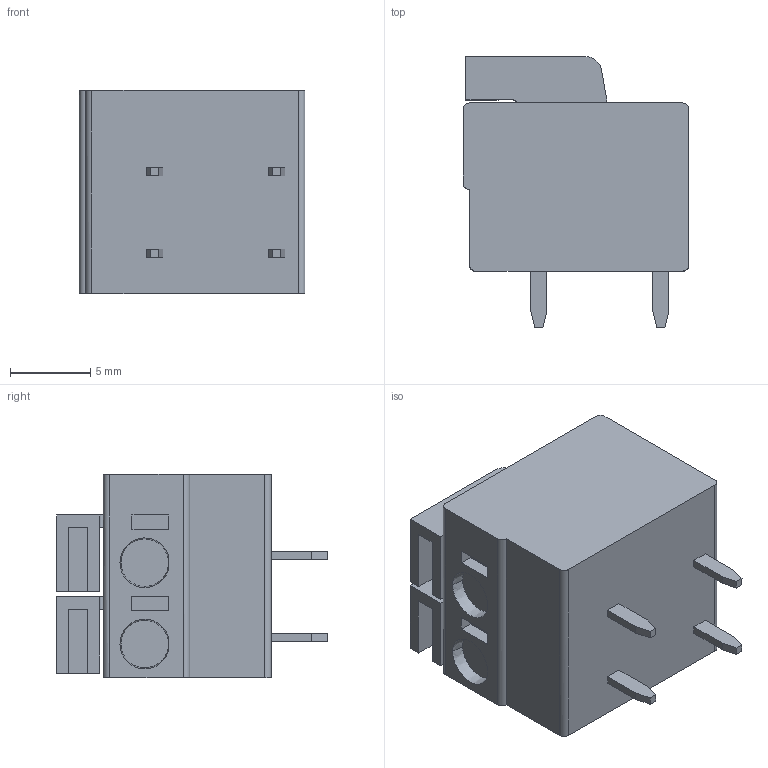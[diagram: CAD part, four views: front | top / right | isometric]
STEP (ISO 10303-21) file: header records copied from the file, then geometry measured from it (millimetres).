
FILE_DESCRIPTION((''),'2;1');
FILE_NAME('PRT0009','2020-06-12T',('P'),(''),'PRO/ENGINEER BY PARAMETRIC TECHNOLOGY CORPORATION, 2010280','PRO/ENGINEER BY PARAMETRIC TECHNOLOGY CORPORATION, 2010280','');
FILE_SCHEMA(('CONFIG_CONTROL_DESIGN'));
Length unit declared in the file: millimetre
Products named in the file (1): PRT0009
Bounding box: 14.1 x 16.9 x 12.7 mm (x, y, z)
Volume: 1970.3 mm3; surface area: 1255.1 mm2
Topology: 1 solids, 3 shells, 108 faces, 293 edges, 201 vertices
Faces by surface type: plane 89, cylinder 15, cone 4
Entity records: 3445 total; most frequent: CARTESIAN_POINT 625, ORIENTED_EDGE 586, DIRECTION 549, EDGE_CURVE 293, VECTOR 243, LINE 243, VERTEX_POINT 201, AXIS2_PLACEMENT_3D 153
